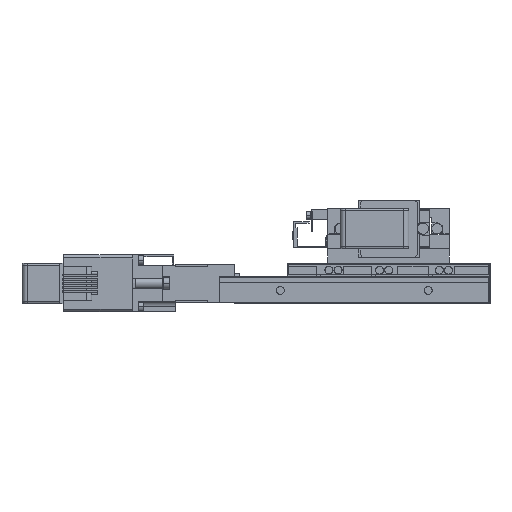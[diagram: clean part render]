
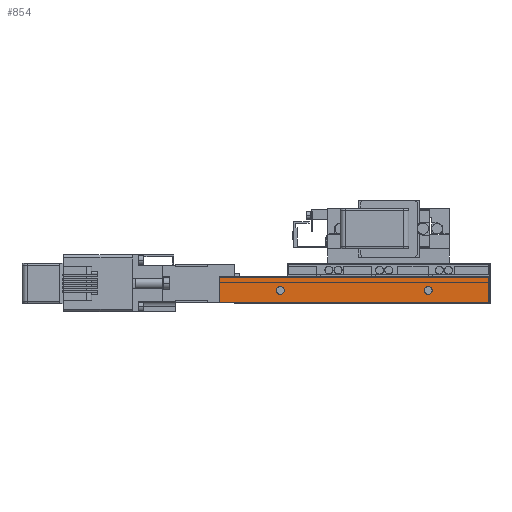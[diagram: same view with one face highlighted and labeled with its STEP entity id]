
A CAD part, front view. The second image highlights one B-rep face of the part: STEP entity #854.
In plain terms, the highlighted planar face has unit normal (0, -1, 0).
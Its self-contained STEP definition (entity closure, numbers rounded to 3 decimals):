
#854=ADVANCED_FACE('',(#2273,#2274,#2275),#2276,.F.);
#2273=FACE_BOUND('',#4795,.T.);
#2274=FACE_OUTER_BOUND('',#4796,.T.);
#2275=FACE_BOUND('',#4797,.T.);
#2276=PLANE('',#4798);
#4795=EDGE_LOOP('',(#8467,#8468));
#4796=EDGE_LOOP('',(#8469,#8470,#8471,#8472));
#4797=EDGE_LOOP('',(#8473,#8474));
#4798=AXIS2_PLACEMENT_3D('',#8475,#8476,#8477);
#8467=ORIENTED_EDGE('',*,*,#16799,.F.);
#8468=ORIENTED_EDGE('',*,*,#16822,.F.);
#8469=ORIENTED_EDGE('',*,*,#16823,.T.);
#8470=ORIENTED_EDGE('',*,*,#16824,.F.);
#8471=ORIENTED_EDGE('',*,*,#16825,.F.);
#8472=ORIENTED_EDGE('',*,*,#16826,.T.);
#8473=ORIENTED_EDGE('',*,*,#16795,.F.);
#8474=ORIENTED_EDGE('',*,*,#16827,.F.);
#8475=CARTESIAN_POINT('',(49.5,-46.8,13.5));
#8476=DIRECTION('',(0.,1.0,0.));
#8477=DIRECTION('',(0.,0.,-1.0));
#16795=EDGE_CURVE('',#20036,#20032,#20038,.F.);
#16799=EDGE_CURVE('',#20044,#20040,#20046,.F.);
#16822=EDGE_CURVE('',#20040,#20044,#20087,.F.);
#16823=EDGE_CURVE('',#20088,#20089,#20090,.T.);
#16824=EDGE_CURVE('',#20091,#20089,#20092,.T.);
#16825=EDGE_CURVE('',#20093,#20091,#20094,.T.);
#16826=EDGE_CURVE('',#20093,#20088,#20095,.T.);
#16827=EDGE_CURVE('',#20032,#20036,#20096,.F.);
#20032=VERTEX_POINT('',#25130);
#20036=VERTEX_POINT('',#25135);
#20038=CIRCLE('',#25138,1.95);
#20040=VERTEX_POINT('',#25140);
#20044=VERTEX_POINT('',#25145);
#20046=CIRCLE('',#25148,1.95);
#20087=CIRCLE('',#25203,1.95);
#20088=VERTEX_POINT('',#25204);
#20089=VERTEX_POINT('',#25205);
#20090=LINE('',#25206,#25207);
#20091=VERTEX_POINT('',#25208);
#20092=LINE('',#25209,#25210);
#20093=VERTEX_POINT('',#25211);
#20094=LINE('',#25212,#25213);
#20095=LINE('',#25214,#25215);
#20096=CIRCLE('',#25216,1.95);
#25130=CARTESIAN_POINT('',(21.45,-46.8,6.5));
#25135=CARTESIAN_POINT('',(17.55,-46.8,6.5));
#25138=AXIS2_PLACEMENT_3D('',#32353,#32354,#32355);
#25140=CARTESIAN_POINT('',(-51.55,-46.8,6.5));
#25145=CARTESIAN_POINT('',(-55.45,-46.8,6.5));
#25148=AXIS2_PLACEMENT_3D('',#32361,#32362,#32363);
#25203=AXIS2_PLACEMENT_3D('',#32402,#32403,#32404);
#25204=CARTESIAN_POINT('',(-83.5,-46.8,13.5));
#25205=CARTESIAN_POINT('',(-83.5,-46.8,0.5));
#25206=CARTESIAN_POINT('',(-83.5,-46.8,13.5));
#25207=VECTOR('',#32405,1000.0);
#25208=CARTESIAN_POINT('',(49.5,-46.8,0.5));
#25209=CARTESIAN_POINT('',(49.5,-46.8,0.5));
#25210=VECTOR('',#32406,1000.0);
#25211=CARTESIAN_POINT('',(49.5,-46.8,13.5));
#25212=CARTESIAN_POINT('',(49.5,-46.8,13.5));
#25213=VECTOR('',#32407,1000.0);
#25214=CARTESIAN_POINT('',(49.5,-46.8,13.5));
#25215=VECTOR('',#32408,1000.0);
#25216=AXIS2_PLACEMENT_3D('',#32409,#32410,#32411);
#32353=CARTESIAN_POINT('',(19.5,-46.8,6.5));
#32354=DIRECTION('',(0.,1.0,0.));
#32355=DIRECTION('',(-1.0,0.,0.));
#32361=CARTESIAN_POINT('',(-53.5,-46.8,6.5));
#32362=DIRECTION('',(0.,1.0,0.));
#32363=DIRECTION('',(-1.0,0.,0.));
#32402=CARTESIAN_POINT('',(-53.5,-46.8,6.5));
#32403=DIRECTION('',(0.,1.0,0.));
#32404=DIRECTION('',(-1.0,0.,0.));
#32405=DIRECTION('',(0.,0.,-1.0));
#32406=DIRECTION('',(-1.0,0.,0.));
#32407=DIRECTION('',(0.,0.,-1.0));
#32408=DIRECTION('',(-1.0,0.,0.));
#32409=CARTESIAN_POINT('',(19.5,-46.8,6.5));
#32410=DIRECTION('',(0.,1.0,0.));
#32411=DIRECTION('',(-1.0,0.,0.));
